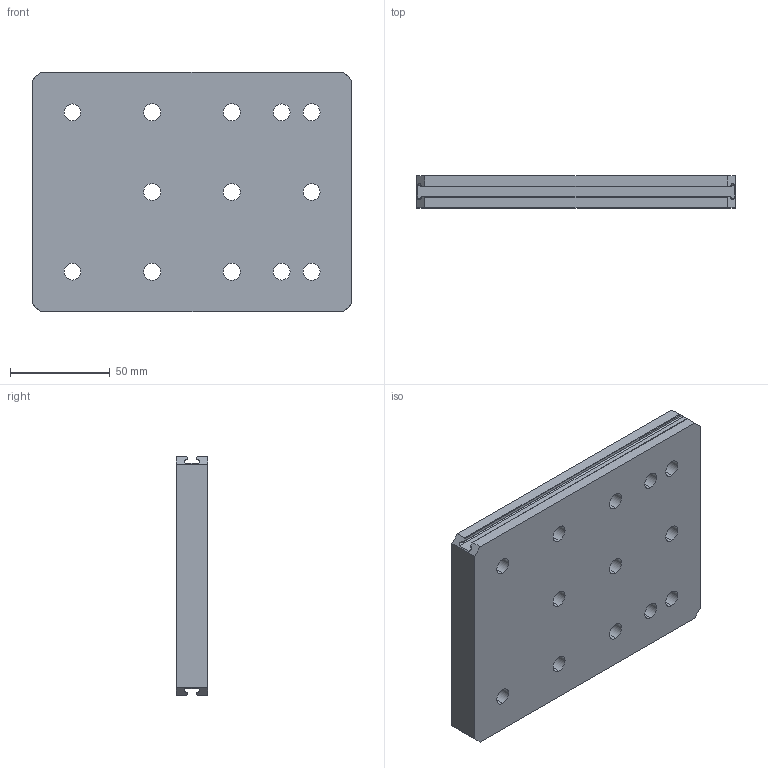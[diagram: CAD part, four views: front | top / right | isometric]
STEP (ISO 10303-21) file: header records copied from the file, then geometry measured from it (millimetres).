
FILE_DESCRIPTION (( 'STEP AP203' ), '1' );
FILE_NAME ('13236_ROLADPL1010580.STEP', '2018-05-24T09:22:16', ( '' ), ( '' ), 'SwSTEP 2.0', 'SolidWorks 2017', '' );
FILE_SCHEMA (( 'CONFIG_CONTROL_DESIGN' ));
Length unit declared in the file: millimetre
Products named in the file (1): 13236_ROLADPL1010580
Bounding box: 160 x 16 x 120 mm (x, y, z)
Volume: 278625.5 mm3; surface area: 56224.6 mm2
Topology: 1 solids, 1 shells, 89 faces, 234 edges, 156 vertices
Faces by surface type: cylinder 58, plane 31
Entity records: 2905 total; most frequent: CARTESIAN_POINT 564, DIRECTION 474, ORIENTED_EDGE 468, EDGE_CURVE 234, AXIS2_PLACEMENT_3D 178, VERTEX_POINT 156, EDGE_LOOP 124, VECTOR 118
